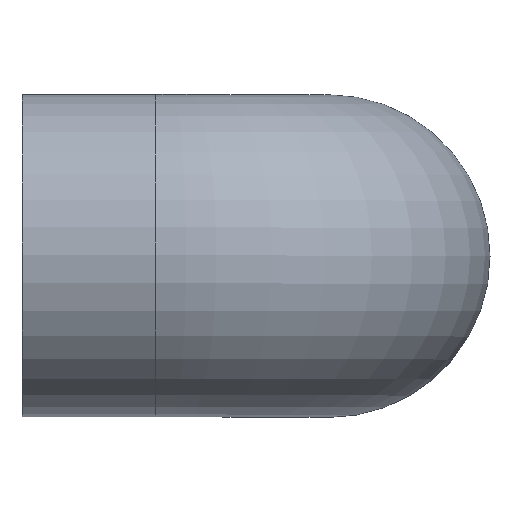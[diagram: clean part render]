
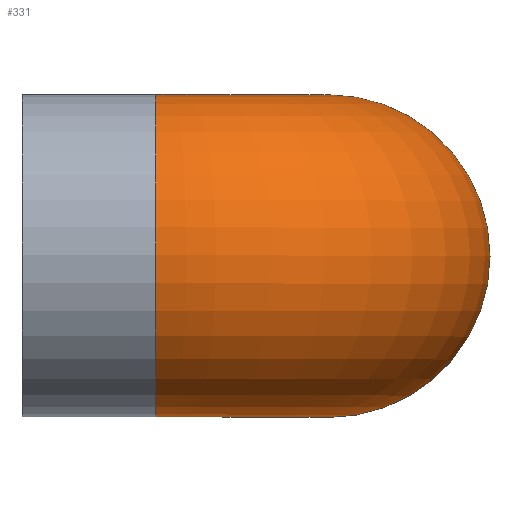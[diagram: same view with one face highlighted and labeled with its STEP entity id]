
A CAD part, top view. The second image highlights one B-rep face of the part: STEP entity #331.
In plain terms, the highlighted toroidal (fillet/blend) face has major radius 22 mm and minor radius 20.5 mm.
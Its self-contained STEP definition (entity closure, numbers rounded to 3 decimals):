
#19=FACE_BOUND('',#92,.T.);
#24=TOROIDAL_SURFACE('',#357,22.,20.5);
#65=FACE_OUTER_BOUND('',#91,.T.);
#91=EDGE_LOOP('',(#287));
#92=EDGE_LOOP('',(#288));
#110=CIRCLE('',#356,20.5);
#111=CIRCLE('',#358,20.5);
#164=VERTEX_POINT('',#7284);
#165=VERTEX_POINT('',#7287);
#208=EDGE_CURVE('',#164,#164,#110,.T.);
#209=EDGE_CURVE('',#165,#165,#111,.T.);
#287=ORIENTED_EDGE('',*,*,#208,.F.);
#288=ORIENTED_EDGE('',*,*,#209,.T.);
#331=ADVANCED_FACE('',(#65,#19),#24,.T.);
#356=AXIS2_PLACEMENT_3D('',#7285,#409,#410);
#357=AXIS2_PLACEMENT_3D('',#7286,#411,#412);
#358=AXIS2_PLACEMENT_3D('',#7288,#413,#414);
#409=DIRECTION('center_axis',(-1.,0.,0.));
#410=DIRECTION('ref_axis',(0.,0.,-1.));
#411=DIRECTION('center_axis',(0.,-1.,0.));
#412=DIRECTION('ref_axis',(0.,0.,-1.));
#413=DIRECTION('center_axis',(0.,0.,1.));
#414=DIRECTION('ref_axis',(-1.,0.,0.));
#7284=CARTESIAN_POINT('',(-22.,0.,59.5));
#7285=CARTESIAN_POINT('Origin',(-22.,0.,39.));
#7286=CARTESIAN_POINT('Origin',(-22.,0.,17.));
#7287=CARTESIAN_POINT('',(20.5,0.,17.));
#7288=CARTESIAN_POINT('Origin',(0.,0.,17.));
